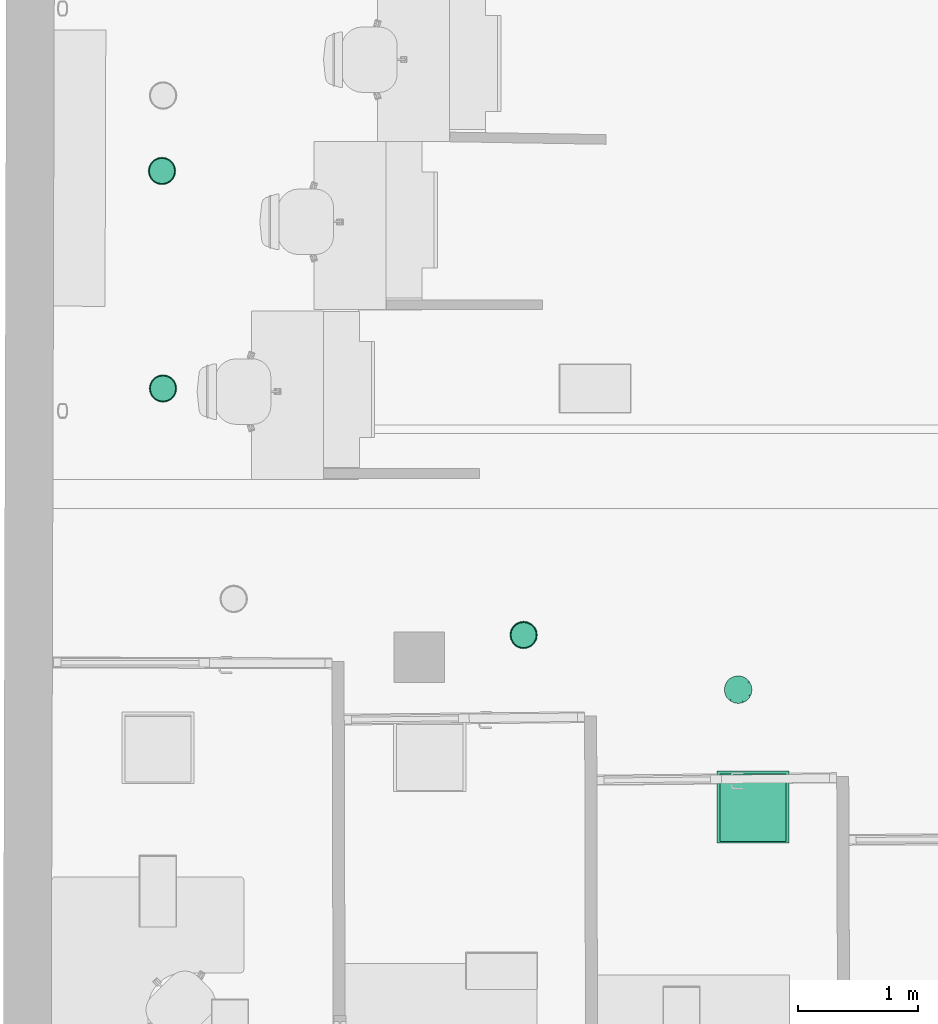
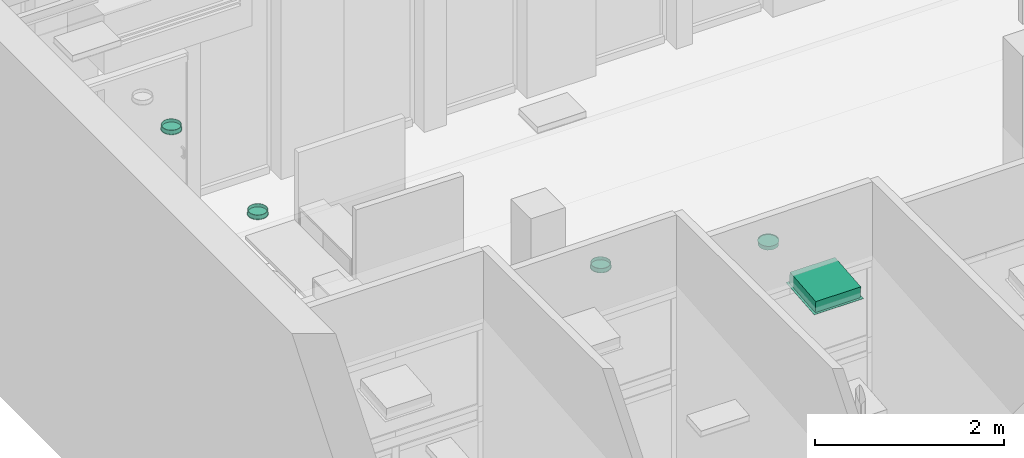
# One storey, part 71 of 128: 4 flow terminals, 1 flow controller.
"""IFC2X3 building model written with IfcOpenShell, lengths in metres."""

from ifc_helpers import new_model, entity, si_unit, converted_unit, derived_unit, direction, frame, origin, place, context, subcontext, project, spatial, faceted_brep, source, transform, mapped, material, material_list, type_object, type_shapes, element, save


model = new_model("IFC2X3")

# Units and contexts
model_context = context("Model", 3, precision=1e-05, world=origin(), true_north=direction((6.123031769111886e-17, 1.0)))
body_context = subcontext(model_context, "Body", "Model", "MODEL_VIEW")
ifc_project = project(units=[si_unit("LENGTHUNIT", "METRE"), si_unit("AREAUNIT", "SQUARE_METRE"), converted_unit("PLANEANGLEUNIT", "DEGREE", entity("IfcPlaneAngleMeasure", 0.017453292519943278), si_unit("PLANEANGLEUNIT", "RADIAN"), dimensions=[0, 0, 0, 0, 0, 0, 0]), derived_unit("THERMALTRANSMITTANCEUNIT", [(si_unit("MASSUNIT", "GRAM", prefix="KILO"), 1), (si_unit("THERMODYNAMICTEMPERATUREUNIT", "KELVIN"), -1), (si_unit("TIMEUNIT", "SECOND"), -3)])], contexts=[model_context])

# Site, building, storey
site_placement = place(None, origin())
site = spatial("IfcSite", under=ifc_project, at=site_placement, Name="Default", CompositionType="ELEMENT")
building_placement = place(site_placement, origin())
building = spatial("IfcBuilding", under=site, at=building_placement, CompositionType="ELEMENT")
storey_placement = place(building_placement, origin())
storey = spatial("IfcBuildingStorey", under=building, at=storey_placement, Name="00_RDC CAF", CompositionType="ELEMENT", Elevation=2.4982504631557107e-13)

# Flow terminals
ifc_material_1 = material(Name="ARC - Eq Elec - Blanc")
light_fixture_type = type_object("IfcLightFixtureType", Name="Eq_Elec_Luminaire_Circulaire_LED_Encastre:Eq_Elec_Luminaire_Circulaire_LED_Encastre_D220x50mm", PredefinedType="NOTDEFINED", material=ifc_material_1)
shared_shape_1 = source(origin(), body_context, "Body", "Brep", [
    faceted_brep([(0.0, 0.10499999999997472, -0.010000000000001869), (0.02717599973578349, 0.10142221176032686, -0.010000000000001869), (0.05250000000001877, 0.09093266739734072, -0.010000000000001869), (0.07424621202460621, 0.07424621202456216, -0.010000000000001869), (0.09093266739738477, 0.05249999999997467, -0.010000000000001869), (0.10142221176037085, 0.027175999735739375, -0.010000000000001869), (0.10500000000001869, 0.0, -0.010000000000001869), (0.10142221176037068, -0.02717599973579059, -0.010000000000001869), (0.09093266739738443, -0.05250000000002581, -0.010000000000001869), (0.07424621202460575, -0.07424621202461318, -0.010000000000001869), (0.0525000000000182, -0.09093266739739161, -0.010000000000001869), (0.02717599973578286, -0.10142221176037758, -0.010000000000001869), (0.0, -0.10500000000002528, -0.010000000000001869), (-0.027175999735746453, -0.10142221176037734, -0.010000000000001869), (-0.052499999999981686, -0.09093266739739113, -0.010000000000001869), (-0.07424621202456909, -0.0742462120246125, -0.010000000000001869), (-0.09093266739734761, -0.052500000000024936, -0.010000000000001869), (-0.10142221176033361, -0.027175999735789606, -0.010000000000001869), (-0.10499999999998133, 0.0, -0.010000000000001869), (-0.1014222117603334, 0.027175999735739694, -0.010000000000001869), (-0.09093266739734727, 0.05249999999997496, -0.010000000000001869), (-0.07424621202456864, 0.07424621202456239, -0.010000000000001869), (-0.052499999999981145, 0.09093266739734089, -0.010000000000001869), (-0.027175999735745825, 0.10142221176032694, -0.010000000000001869), (0.02717599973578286, -0.10142221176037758, 0.0), (0.0525000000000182, -0.09093266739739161, 0.0), (0.07424621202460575, -0.07424621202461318, 0.0), (0.09093266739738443, -0.05250000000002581, 0.0), (0.10142221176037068, -0.02717599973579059, 0.0), (0.10500000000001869, 0.0, 0.0), (0.10142221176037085, 0.027175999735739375, 0.0), (0.09093266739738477, 0.05249999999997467, 0.0), (0.07424621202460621, 0.07424621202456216, 0.0), (0.05250000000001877, 0.09093266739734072, 0.0), (0.02717599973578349, 0.10142221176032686, 0.0), (0.0, 0.10499999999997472, 0.0), (-0.027175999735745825, 0.10142221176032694, 0.0), (-0.052499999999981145, 0.09093266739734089, 0.0), (-0.07424621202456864, 0.07424621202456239, 0.0), (-0.09093266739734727, 0.05249999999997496, 0.0), (-0.1014222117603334, 0.027175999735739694, 0.0), (-0.10499999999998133, 0.0, 0.0), (-0.10142221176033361, -0.027175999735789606, 0.0), (-0.09093266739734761, -0.052500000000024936, 0.0), (-0.07424621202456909, -0.0742462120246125, 0.0), (-0.052499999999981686, -0.09093266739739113, 0.0), (-0.027175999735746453, -0.10142221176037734, 0.0), (0.0, -0.10500000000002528, 0.0)], [[[0, 1, 2, 3, 4, 5, 6, 7, 8, 9, 10, 11, 12, 13, 14, 15, 16, 17, 18, 19, 20, 21, 22, 23]], [[24, 25, 26, 27, 28, 29, 30, 31, 32, 33, 34, 35, 36, 37, 38, 39, 40, 41, 42, 43, 44, 45, 46, 47]], [[17, 42, 41, 18]], [[16, 43, 42, 17]], [[45, 44, 15, 14]], [[16, 15, 44, 43]], [[46, 45, 14, 13]], [[47, 46, 13, 12]], [[11, 24, 47, 12]], [[10, 25, 24, 11]], [[27, 26, 9, 8]], [[10, 9, 26, 25]], [[28, 27, 8, 7]], [[29, 28, 7, 6]], [[5, 30, 29, 6]], [[4, 31, 30, 5]], [[33, 32, 3, 2]], [[4, 3, 32, 31]], [[34, 33, 2, 1]], [[35, 34, 1, 0]], [[23, 36, 35, 0]], [[22, 37, 36, 23]], [[19, 18, 41, 40]], [[21, 38, 37, 22]], [[39, 20, 19, 40]], [[39, 38, 21, 20]]]),
    faceted_brep([(-0.10999999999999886, 0.0, 0.0), (-0.10999999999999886, 0.0, -0.05000000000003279), (-0.10461621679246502, -0.033991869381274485, -0.05000000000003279), (-0.10461621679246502, -0.033991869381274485, 0.0), (-0.08899186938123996, -0.06465637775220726, 0.0), (-0.08899186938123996, -0.06465637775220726, -0.05000000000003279), (-0.06465637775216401, -0.08899186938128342, -0.05000000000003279), (-0.06465637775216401, -0.08899186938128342, 0.0), (-0.03399186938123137, -0.10461621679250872, -0.05000000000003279), (-0.03399186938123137, -0.10461621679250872, 0.0), (0.0, -0.11000000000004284, -0.05000000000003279), (0.0, -0.11000000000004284, 0.0), (0.033991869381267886, -0.10461621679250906, -0.05000000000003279), (0.06465637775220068, -0.08899186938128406, -0.05000000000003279), (0.06465637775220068, -0.08899186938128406, 0.0), (0.033991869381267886, -0.10461621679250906, 0.0), (0.10461621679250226, -0.03399186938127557, 0.0), (0.08899186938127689, -0.06465637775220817, 0.0), (0.08899186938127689, -0.06465637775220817, -0.05000000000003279), (0.10461621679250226, -0.03399186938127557, -0.05000000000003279), (0.11000000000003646, 0.0, 0.0), (0.11000000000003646, 0.0, -0.05000000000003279), (-0.1093714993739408, -0.03553695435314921, 0.0), (-0.1093714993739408, -0.03553695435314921, 0.004999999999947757), (-0.11135404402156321, -0.023019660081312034, 0.004999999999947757), (-0.11499999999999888, 0.0, 0.004999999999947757), (-0.11499999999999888, 0.0, 0.0), (-0.11218574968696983, -0.017768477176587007, 0.0), (-0.09303695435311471, -0.0675953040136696, 0.0), (-0.08031612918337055, -0.08031612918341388, 0.0), (-0.06759530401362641, -0.09303695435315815, 0.0), (-0.06759530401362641, -0.09303695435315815, 0.004999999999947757), (-0.08031612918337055, -0.08031612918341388, 0.004999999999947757), (-0.09303695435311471, -0.0675953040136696, 0.004999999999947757), (0.10120422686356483, -0.05156612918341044, 0.004999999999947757), (0.09303695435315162, -0.06759530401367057, 0.004999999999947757), (0.09303695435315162, -0.06759530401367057, 0.0), (0.10120422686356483, -0.05156612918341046, 0.0), (0.10937149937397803, -0.035536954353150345, 0.0), (0.10937149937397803, -0.035536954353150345, 0.004999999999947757), (0.08031612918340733, -0.0803161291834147, 0.004999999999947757), (0.06759530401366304, -0.09303695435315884, 0.004999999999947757), (0.06759530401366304, -0.09303695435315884, 0.0), (0.08031612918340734, -0.08031612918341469, 0.0), (-0.10120422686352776, -0.0515661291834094, 0.0), (-0.10120422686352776, -0.0515661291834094, 0.004999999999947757), (-0.051566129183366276, -0.10120422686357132, 0.0), (-0.03553695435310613, -0.1093714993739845, 0.0), (-0.03553695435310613, -0.1093714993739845, 0.004999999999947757), (-0.051566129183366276, -0.10120422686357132, 0.004999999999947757), (0.11500000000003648, 0.0, 0.004999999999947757), (0.11135404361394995, -0.02301966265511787, 0.004999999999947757), (0.11218574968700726, -0.01776847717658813, 0.0), (0.11500000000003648, 0.0, 0.0), (0.017768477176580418, -0.11218574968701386, 0.0), (0.0355369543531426, -0.10937149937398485, 0.0), (0.0355369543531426, -0.10937149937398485, 0.004999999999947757), (0.017768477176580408, -0.11218574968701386, 0.004999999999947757), (0.0, -0.11500000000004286, 0.004999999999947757), (0.0, -0.11500000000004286, 0.0), (-0.017768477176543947, -0.11218574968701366, 0.004999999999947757), (-0.017768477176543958, -0.11218574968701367, 0.0), (0.051566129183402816, -0.10120422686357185, 0.0), (0.051566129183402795, -0.10120422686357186, 0.004999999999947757), (-0.09986093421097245, -0.0324467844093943, -0.05000000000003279), (-0.1049999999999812, 0.0, -0.05000000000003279), (-0.1049999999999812, 0.0, 0.004999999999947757), (-0.09986093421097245, -0.0324467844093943, 0.004999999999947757), (-0.061717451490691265, -0.08494678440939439, -0.05000000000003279), (-0.08494678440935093, -0.06171745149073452, -0.05000000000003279), (-0.08494678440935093, -0.06171745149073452, 0.004999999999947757), (-0.061717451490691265, -0.08494678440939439, 0.004999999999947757), (-0.03244678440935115, -0.09986093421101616, 0.004999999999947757), (-0.03244678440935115, -0.09986093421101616, -0.05000000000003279), (0.0, -0.10500000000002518, 0.004999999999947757), (0.0, -0.10500000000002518, -0.05000000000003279), (0.06171745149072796, -0.08494678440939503, -0.05000000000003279), (0.03244678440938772, -0.0998609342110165, -0.05000000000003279), (0.03244678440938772, -0.0998609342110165, 0.004999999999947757), (0.06171745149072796, -0.08494678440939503, 0.004999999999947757), (0.09986093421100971, -0.03244678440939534, -0.05000000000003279), (0.0849467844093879, -0.06171745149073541, -0.05000000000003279), (0.0849467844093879, -0.06171745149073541, 0.004999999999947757), (0.09986093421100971, -0.03244678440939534, 0.004999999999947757), (0.1050000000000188, 0.0, -0.05000000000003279), (0.1050000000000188, 0.0, 0.004999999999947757), (0.10461621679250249, 0.03399186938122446, -0.05000000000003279), (0.10461621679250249, 0.03399186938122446, 0.0), (0.08899186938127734, 0.06465637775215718, 0.0), (0.08899186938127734, 0.06465637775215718, -0.05000000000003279), (0.0646563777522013, 0.08899186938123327, -0.05000000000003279), (0.0646563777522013, 0.08899186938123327, 0.0), (0.03399186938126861, 0.10461621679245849, -0.05000000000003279), (0.03399186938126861, 0.10461621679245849, 0.0), (0.0, 0.10999999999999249, -0.05000000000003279), (0.0, 0.10999999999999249, 0.0), (-0.033991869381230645, 0.1046162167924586, -0.05000000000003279), (-0.0646563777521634, 0.0889918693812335, -0.05000000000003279), (-0.0646563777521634, 0.0889918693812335, 0.0), (-0.033991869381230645, 0.1046162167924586, 0.0), (-0.10461621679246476, 0.03399186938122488, 0.0), (-0.0889918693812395, 0.06465637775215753, 0.0), (-0.0889918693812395, 0.06465637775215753, -0.05000000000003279), (-0.10461621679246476, 0.03399186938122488, -0.05000000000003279), (0.09986093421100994, 0.03244678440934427, -0.05000000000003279), (0.08494678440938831, 0.061717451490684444, -0.05000000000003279), (0.06171745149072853, 0.08494678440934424, -0.05000000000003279), (0.03244678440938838, 0.0998609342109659, -0.05000000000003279), (0.0, 0.1049999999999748, -0.05000000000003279), (-0.032446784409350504, 0.09986093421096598, -0.05000000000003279), (-0.061717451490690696, 0.0849467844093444, -0.05000000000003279), (-0.0849467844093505, 0.06171745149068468, -0.05000000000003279), (-0.0998609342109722, 0.03244678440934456, -0.05000000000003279), (0.10937149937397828, 0.035536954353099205, 0.0), (0.10937149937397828, 0.035536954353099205, 0.004999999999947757), (0.11135404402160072, 0.023019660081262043, 0.004999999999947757), (0.11218574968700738, 0.017768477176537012, 0.0), (0.0930369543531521, 0.06759530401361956, 0.0), (0.0803161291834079, 0.0803161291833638, 0.0), (0.06759530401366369, 0.093036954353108, 0.0), (0.06759530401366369, 0.093036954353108, 0.004999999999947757), (0.0803161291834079, 0.0803161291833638, 0.004999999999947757), (0.0930369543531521, 0.06759530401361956, 0.004999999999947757), (-0.1012042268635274, 0.05156612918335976, 0.004999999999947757), (-0.09303695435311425, 0.06759530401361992, 0.004999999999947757), (-0.09303695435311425, 0.06759530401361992, 0.0), (-0.1012042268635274, 0.05156612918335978, 0.0), (-0.10937149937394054, 0.03553695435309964, 0.0), (-0.10937149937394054, 0.03553695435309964, 0.004999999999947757), (-0.08031612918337, 0.0803161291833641, 0.004999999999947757), (-0.06759530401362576, 0.09303695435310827, 0.004999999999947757), (-0.06759530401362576, 0.09303695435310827, 0.0), (-0.08031612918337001, 0.08031612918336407, 0.0), (0.1012042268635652, 0.05156612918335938, 0.0), (0.1012042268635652, 0.05156612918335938, 0.004999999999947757), (0.051566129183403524, 0.10120422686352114, 0.0), (0.03553695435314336, 0.10937149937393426, 0.0), (0.03553695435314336, 0.10937149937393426, 0.004999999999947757), (0.051566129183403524, 0.10120422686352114, 0.004999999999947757), (-0.11135404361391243, 0.023019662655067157, 0.004999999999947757), (-0.11218574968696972, 0.017768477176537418, 0.0), (-0.0177684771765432, 0.11218574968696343, 0.0), (-0.035536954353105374, 0.1093714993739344, 0.0), (-0.035536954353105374, 0.1093714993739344, 0.004999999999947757), (-0.017768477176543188, 0.11218574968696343, 0.004999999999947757), (0.0, 0.1149999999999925, 0.004999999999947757), (0.0, 0.1149999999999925, 0.0), (0.017768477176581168, 0.11218574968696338, 0.004999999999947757), (0.017768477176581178, 0.11218574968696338, 0.0), (-0.05156612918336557, 0.10120422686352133, 0.0), (-0.05156612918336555, 0.10120422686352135, 0.004999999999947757), (0.09986093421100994, 0.03244678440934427, 0.004999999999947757), (0.08494678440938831, 0.061717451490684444, 0.004999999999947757), (0.06171745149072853, 0.08494678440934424, 0.004999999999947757), (0.03244678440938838, 0.0998609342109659, 0.004999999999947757), (0.0, 0.1049999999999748, 0.004999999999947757), (-0.032446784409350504, 0.09986093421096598, 0.004999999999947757), (-0.061717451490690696, 0.0849467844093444, 0.004999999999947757), (-0.0849467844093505, 0.06171745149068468, 0.004999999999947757), (-0.0998609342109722, 0.03244678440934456, 0.004999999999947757)], [[[0, 1, 2, 3]], [[4, 5, 6, 7]], [[2, 5, 4, 3]], [[6, 8, 9, 7]], [[9, 8, 10, 11]], [[12, 13, 14, 15]], [[16, 17, 18, 19]], [[18, 17, 14, 13]], [[20, 16, 19, 21]], [[15, 11, 10, 12]], [[22, 23, 24, 25, 26, 27]], [[28, 29, 30, 31, 32, 33]], [[34, 35, 36, 37, 38, 39]], [[40, 41, 42, 43, 36, 35]], [[22, 44, 28, 33, 45, 23]], [[30, 46, 47, 48, 49, 31]], [[50, 51, 39, 38, 52, 53]], [[54, 55, 56, 57, 58, 59]], [[60, 48, 47, 61, 59, 58]], [[55, 62, 42, 41, 63, 56]], [[64, 65, 66, 67]], [[68, 69, 70, 71]], [[67, 70, 69, 64]], [[71, 72, 73, 68]], [[74, 75, 73, 72]], [[76, 77, 78, 79]], [[80, 81, 82, 83]], [[82, 81, 76, 79]], [[84, 80, 83, 85]], [[78, 77, 75, 74]], [[20, 21, 86, 87]], [[88, 89, 90, 91]], [[86, 89, 88, 87]], [[90, 92, 93, 91]], [[93, 92, 94, 95]], [[96, 97, 98, 99]], [[100, 101, 102, 103]], [[102, 101, 98, 97]], [[0, 100, 103, 1]], [[99, 95, 94, 96]], [[64, 69, 5]], [[5, 2, 64]], [[64, 2, 65]], [[6, 5, 69]], [[69, 68, 6]], [[68, 73, 6]], [[8, 6, 73]], [[73, 75, 8]], [[10, 8, 75]], [[10, 75, 77]], [[77, 12, 10]], [[77, 76, 12]], [[13, 12, 76]], [[81, 13, 76]], [[13, 81, 18]], [[80, 18, 81]], [[18, 80, 19]], [[84, 19, 80]], [[21, 19, 84]], [[104, 21, 84]], [[86, 21, 104]], [[104, 105, 86]], [[89, 86, 105]], [[106, 89, 105]], [[89, 106, 90]], [[92, 90, 106]], [[106, 107, 92]], [[92, 107, 94]], [[107, 108, 94]], [[94, 108, 96]], [[108, 109, 96]], [[97, 96, 109]], [[109, 110, 97]], [[102, 97, 110]], [[110, 111, 102]], [[102, 111, 103]], [[112, 103, 111]], [[103, 112, 1]], [[112, 65, 1]], [[1, 65, 2]], [[113, 114, 115, 50, 53, 116]], [[117, 118, 119, 120, 121, 122]], [[123, 124, 125, 126, 127, 128]], [[129, 130, 131, 132, 125, 124]], [[113, 133, 117, 122, 134, 114]], [[119, 135, 136, 137, 138, 120]], [[25, 139, 128, 127, 140, 26]], [[141, 142, 143, 144, 145, 146]], [[147, 137, 136, 148, 146, 145]], [[142, 149, 131, 130, 150, 143]], [[33, 70, 67]], [[70, 33, 32]], [[67, 45, 33]], [[70, 32, 31]], [[31, 71, 70]], [[31, 72, 71]], [[72, 31, 49]], [[72, 49, 48]], [[48, 74, 72]], [[74, 48, 60]], [[74, 60, 58]], [[78, 74, 58]], [[78, 58, 57]], [[78, 57, 56]], [[56, 79, 78]], [[79, 56, 63]], [[79, 63, 41]], [[79, 41, 82]], [[82, 41, 40]], [[82, 40, 35]], [[82, 35, 83]], [[83, 35, 34]], [[83, 34, 39]], [[83, 39, 85]], [[85, 39, 51]], [[85, 51, 50]], [[85, 50, 151]], [[151, 50, 115]], [[151, 115, 114]], [[114, 152, 151]], [[152, 114, 134]], [[152, 134, 122]], [[152, 122, 153]], [[153, 122, 121]], [[153, 121, 120]], [[153, 120, 138]], [[153, 138, 137]], [[137, 154, 153]], [[154, 137, 147]], [[154, 147, 145]], [[145, 155, 154]], [[155, 145, 144]], [[155, 144, 143]], [[143, 156, 155]], [[156, 143, 150]], [[156, 150, 130]], [[130, 157, 156]], [[157, 130, 129]], [[157, 129, 124]], [[124, 158, 157]], [[158, 124, 123]], [[158, 123, 128]], [[158, 128, 159]], [[159, 128, 139]], [[159, 139, 25]], [[25, 66, 159]], [[66, 25, 24]], [[66, 24, 23]], [[23, 67, 66]], [[67, 23, 45]], [[104, 84, 85, 151]], [[106, 105, 152, 153]], [[151, 152, 105, 104]], [[153, 154, 107, 106]], [[155, 108, 107, 154]], [[110, 109, 156, 157]], [[112, 111, 158, 159]], [[158, 111, 110, 157]], [[65, 112, 159, 66]], [[156, 109, 108, 155]], [[3, 4, 28]], [[3, 28, 44]], [[3, 44, 22]], [[3, 22, 0]], [[4, 29, 28]], [[4, 30, 29]], [[4, 7, 30]], [[7, 9, 30]], [[9, 46, 30]], [[9, 47, 46]], [[9, 11, 47]], [[11, 61, 47]], [[11, 59, 61]], [[59, 11, 15]], [[15, 54, 59]], [[15, 55, 54]], [[15, 14, 55]], [[14, 62, 55]], [[14, 42, 62]], [[17, 42, 14]], [[17, 43, 42]], [[17, 36, 43]], [[16, 36, 17]], [[16, 37, 36]], [[16, 38, 37]], [[20, 38, 16]], [[20, 52, 38]], [[20, 53, 52]], [[87, 53, 20]], [[87, 116, 53]], [[87, 113, 116]], [[87, 88, 113]], [[88, 133, 113]], [[88, 117, 133]], [[91, 117, 88]], [[91, 118, 117]], [[91, 119, 118]], [[91, 135, 119]], [[91, 136, 135]], [[91, 93, 136]], [[93, 148, 136]], [[93, 146, 148]], [[93, 95, 146]], [[95, 141, 146]], [[95, 142, 141]], [[95, 99, 142]], [[99, 149, 142]], [[99, 131, 149]], [[99, 98, 131]], [[98, 132, 131]], [[98, 125, 132]], [[98, 101, 125]], [[101, 126, 125]], [[101, 127, 126]], [[100, 127, 101]], [[100, 0, 26]], [[100, 26, 140]], [[100, 140, 127]], [[0, 22, 27]], [[0, 27, 26]]]),
])
type_shapes(light_fixture_type, [shared_shape_1])
for number, where, z_axis, x_axis in (
    (1, (10.603233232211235, 136.73796475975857, 3.347469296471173), (0.0, 0.029986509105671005, -0.9995503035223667), (1.0, 0.0, 0.0)),
    (2, (12.389233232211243, 136.2831693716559, 3.3340478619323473), (0.0, -0.029986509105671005, 0.9995503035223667), (1.0, 0.0, 0.0)),
    (3, (7.600508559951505, 138.7900136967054, 3.839999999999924), (0.0, 0.0, -1.0), (1.0, 0.0, 0.0)),
    (4, (7.592233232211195, 140.60148300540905, 3.839999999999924), (0.0, 0.0, -1.0), (1.0, 0.0, 0.0)),
):
    element("IfcFlowTerminal", number, at=place(storey_placement, frame(where, z_axis=z_axis, x_axis=x_axis)), inside=storey, type_object=light_fixture_type, material=ifc_material_1, Name="Eq_Elec_Luminaire_Circulaire_LED_Encastre:Eq_Elec_Luminaire_Circulaire_LED_Encastre_D220x50mm", ObjectType="Eq_Elec_Luminaire_Circulaire_LED_Encastre:Eq_Elec_Luminaire_Circulaire_LED_Encastre_D220x50mm", context=body_context, shape_type="MappedRepresentation", body=[
        mapped(shared_shape_1, transform((0.0, 0.0, 0.0), scale=1.0)),
    ])

# Flow controller
ifc_material_2 = material(Name="ARC - Eq CVC - Blanc")
ifc_material_3 = material(Name="<Unnamed>")
ifc_material_list = material_list([ifc_material_2, ifc_material_3])
air_terminal_box_type = type_object("IfcAirTerminalBoxType", Name="Eq_CVC_Bouche_circulaire_soufflage_base carre:Eq_CVC_Bouche_circulaire_soufflage_D350mm_base carre_600x600mm", PredefinedType="NOTDEFINED", material=ifc_material_list)
shared_shape_2 = source(origin(), body_context, "Body", "Brep", [
    faceted_brep([(-0.27499999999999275, 0.27499999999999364, -0.050000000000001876), (-0.10825317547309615, 0.06250000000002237, -0.050000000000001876), (-0.12074072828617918, 0.03235238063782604, -0.050000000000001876), (-0.08838834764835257, 0.0883883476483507, -0.050000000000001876), (-0.124999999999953, 0.0, -0.050000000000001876), (-0.06250000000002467, 0.10825317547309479, -0.050000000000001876), (-0.032352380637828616, 0.12074072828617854, -0.050000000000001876), (0.0, 0.12500000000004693, -0.050000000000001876), (0.2750000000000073, 0.27499999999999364, -0.050000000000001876), (-0.27499999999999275, -0.27500000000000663, -0.050000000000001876), (0.0323523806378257, 0.12074072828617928, -0.050000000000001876), (0.06250000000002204, 0.10825317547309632, -0.050000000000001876), (0.08838834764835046, 0.08838834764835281, -0.050000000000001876), (0.10825317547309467, 0.06250000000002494, -0.050000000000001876), (0.12074072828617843, 0.03235238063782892, -0.050000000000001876), (0.12500000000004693, 0.0, -0.050000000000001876), (0.2750000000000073, -0.27500000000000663, -0.050000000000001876), (0.12074072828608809, -0.03235238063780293, -0.050000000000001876), (0.10825317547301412, -0.06249999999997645, -0.050000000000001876), (0.08838834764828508, -0.08838834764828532, -0.050000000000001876), (0.06249999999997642, -0.10825317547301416, -0.050000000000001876), (0.03235238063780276, -0.12074072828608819, -0.050000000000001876), (0.0, -0.12499999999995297, -0.050000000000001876), (-0.12074072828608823, -0.032352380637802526, -0.050000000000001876), (-0.10825317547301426, -0.06249999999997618, -0.050000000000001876), (-0.08838834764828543, -0.08838834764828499, -0.050000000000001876), (-0.062499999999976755, -0.10825317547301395, -0.050000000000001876), (-0.03235238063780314, -0.12074072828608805, -0.050000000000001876), (0.2750000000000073, 0.27499999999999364, 0.0), (0.15155444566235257, 0.08750000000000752, 0.0), (0.1690370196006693, 0.04529333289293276, 0.0), (0.12374368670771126, 0.12374368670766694, 0.0), (0.17499999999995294, 0.0, 0.0), (0.08750000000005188, 0.15155444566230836, 0.0), (0.045293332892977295, 0.16903701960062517, 0.0), (0.0, 0.17500000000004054, 0.0), (-0.27499999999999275, 0.27499999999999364, 0.0), (0.2750000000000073, -0.27500000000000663, 0.0), (-0.045293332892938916, 0.16903701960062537, 0.0), (-0.08750000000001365, 0.15155444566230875, 0.0), (-0.12374368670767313, 0.1237436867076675, 0.0), (-0.1515544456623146, 0.08750000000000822, 0.0), (-0.1690370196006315, 0.04529333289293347, 0.0), (-0.17500000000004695, 0.0, 0.0), (-0.27499999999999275, -0.27500000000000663, 0.0), (-0.16903701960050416, -0.045293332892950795, 0.0), (-0.15155444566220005, -0.08749999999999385, 0.0), (-0.12374368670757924, -0.12374368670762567, 0.0), (-0.08749999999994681, -0.15155444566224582, 0.0), (-0.04529333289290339, -0.16903701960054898, 0.0), (0.0, -0.17499999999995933, 0.0), (0.1690370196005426, -0.04529333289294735, 0.0), (0.15155444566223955, -0.08749999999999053, 0.0), (0.12374368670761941, -0.1237436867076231, 0.0), (0.08749999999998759, -0.151554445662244, 0.0), (0.04529333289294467, -0.16903701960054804, 0.0)], [[[0, 1, 2]], [[1, 0, 3]], [[0, 2, 4]], [[5, 3, 0]], [[6, 5, 0]], [[7, 6, 0]], [[0, 8, 7]], [[4, 9, 0]], [[10, 7, 8]], [[11, 10, 8]], [[12, 11, 8]], [[8, 13, 12]], [[13, 8, 14]], [[15, 14, 8]], [[8, 16, 15]], [[17, 15, 16]], [[18, 17, 16]], [[16, 19, 18]], [[19, 16, 20]], [[21, 20, 16]], [[22, 21, 16]], [[22, 16, 9]], [[9, 4, 23]], [[9, 23, 24]], [[24, 25, 9]], [[25, 26, 9]], [[26, 27, 9]], [[9, 27, 22]], [[28, 29, 30]], [[29, 28, 31]], [[28, 30, 32]], [[33, 31, 28]], [[34, 33, 28]], [[35, 34, 28]], [[28, 36, 35]], [[32, 37, 28]], [[38, 35, 36]], [[39, 38, 36]], [[40, 39, 36]], [[36, 41, 40]], [[41, 36, 42]], [[43, 42, 36]], [[36, 44, 43]], [[45, 43, 44]], [[46, 45, 44]], [[44, 47, 46]], [[47, 44, 48]], [[49, 48, 44]], [[50, 49, 44]], [[50, 44, 37]], [[37, 32, 51]], [[37, 51, 52]], [[52, 53, 37]], [[53, 54, 37]], [[54, 55, 37]], [[37, 55, 50]], [[36, 28, 8, 0]], [[44, 36, 0, 9]], [[37, 44, 9, 16]], [[28, 37, 16, 8]], [[47, 25, 24, 46]], [[46, 24, 23, 45]], [[27, 26, 48, 49]], [[27, 49, 50, 22]], [[48, 26, 25, 47]], [[45, 23, 4, 43]], [[54, 53, 19, 20]], [[55, 54, 20, 21]], [[51, 32, 15, 17]], [[52, 51, 17, 18]], [[53, 52, 18, 19]], [[55, 21, 22, 50]], [[31, 12, 13, 29]], [[29, 13, 14, 30]], [[10, 11, 33, 34]], [[10, 34, 35, 7]], [[33, 11, 12, 31]], [[30, 14, 15, 32]], [[39, 40, 3, 5]], [[38, 39, 5, 6]], [[42, 43, 4, 2]], [[41, 42, 2, 1]], [[40, 41, 1, 3]], [[38, 6, 7, 35]]]),
    faceted_brep([(0.30000000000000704, 0.29999999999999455, 0.0), (0.30000000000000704, 0.2999999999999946, 0.0049999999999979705), (0.30000000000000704, -0.30000000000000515, 0.0049999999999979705), (0.30000000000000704, -0.30000000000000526, 0.0), (-0.29999999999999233, -0.30000000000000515, 0.0049999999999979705), (-0.29999999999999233, -0.30000000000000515, 0.0), (-0.29999999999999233, 0.2999999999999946, 0.0049999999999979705), (-0.29999999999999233, 0.2999999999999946, 0.0), (0.2750000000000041, -0.27500000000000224, 0.0049999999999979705), (-0.2749999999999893, -0.27500000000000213, 0.0049999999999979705), (-0.2749999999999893, 0.27499999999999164, 0.0049999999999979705), (0.2750000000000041, 0.27499999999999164, 0.0049999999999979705), (0.2750000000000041, 0.27499999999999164, 0.0), (0.2750000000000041, -0.2750000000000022, 0.0), (-0.2749999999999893, -0.27500000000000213, 0.0), (-0.2749999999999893, 0.27499999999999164, 0.0)], [[[0, 1, 2, 3]], [[3, 2, 4, 5]], [[5, 4, 6, 7]], [[7, 6, 1, 0]], [[1, 6, 4, 2], [8, 9, 10, 11]], [[11, 12, 13, 8]], [[8, 13, 14, 9]], [[9, 14, 15, 10]], [[3, 5, 7, 0], [12, 15, 14, 13]], [[10, 15, 12, 11]]]),
    faceted_brep([(-0.27499999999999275, -0.27500000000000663, -0.15000000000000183), (-0.27499999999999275, 0.27499999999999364, -0.15000000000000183), (0.2750000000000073, 0.27499999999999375, -0.15000000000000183), (0.2750000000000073, -0.27500000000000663, -0.15000000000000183), (-0.27499999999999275, -0.27500000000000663, -0.05000000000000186), (0.2750000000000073, -0.27500000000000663, -0.05000000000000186), (0.2750000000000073, 0.27499999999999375, -0.05000000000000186), (-0.27499999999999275, 0.27499999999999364, -0.05000000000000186)], [[[0, 1, 2, 3]], [[4, 5, 6, 7]], [[5, 4, 0, 3]], [[6, 5, 3, 2]], [[7, 6, 2, 1]], [[4, 7, 1, 0]]]),
])
type_shapes(air_terminal_box_type, [shared_shape_2])
flow_controller_placement = place(storey_placement, frame((12.512915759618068, 135.30611750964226, 3.236698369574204), z_axis=(0.0, 0.0896376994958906, -0.9959744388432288), x_axis=(0.9999999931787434, 0.00011633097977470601, 1.0469788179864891e-05)))
element("IfcFlowController", 5, at=flow_controller_placement, inside=storey, type_object=air_terminal_box_type, material=ifc_material_list, Name="Eq_CVC_Bouche_circulaire_soufflage_base carre:Eq_CVC_Bouche_circulaire_soufflage_D350mm_base carre_600x600mm", ObjectType="Eq_CVC_Bouche_circulaire_soufflage_base carre:Eq_CVC_Bouche_circulaire_soufflage_D350mm_base carre_600x600mm", context=body_context, shape_type="MappedRepresentation", body=[
    mapped(shared_shape_2, transform((0.0, 0.0, 0.0), scale=1.0)),
])

save(model, "model.ifc")
